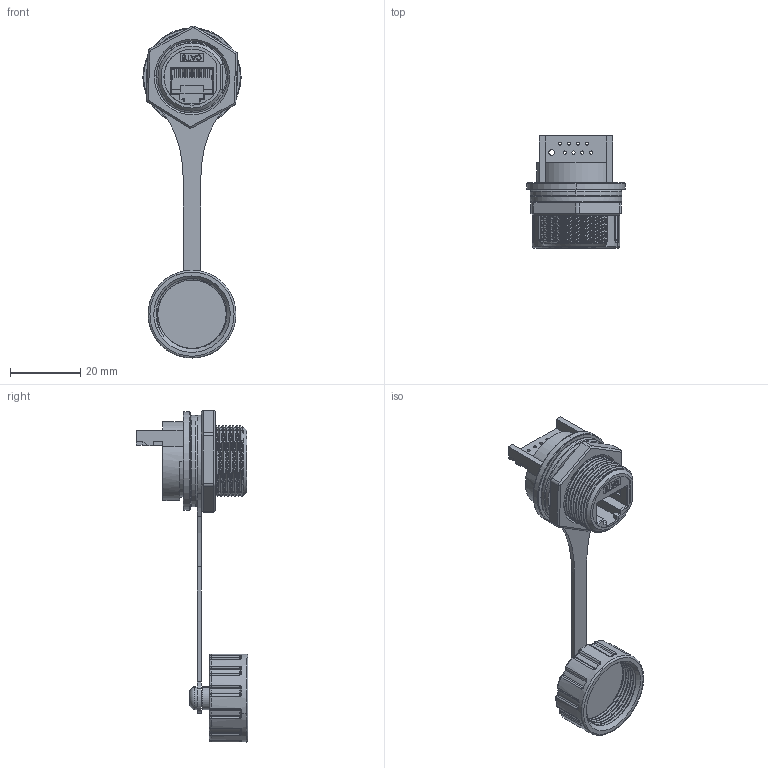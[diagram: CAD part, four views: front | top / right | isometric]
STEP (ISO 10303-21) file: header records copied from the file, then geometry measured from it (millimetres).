
FILE_DESCRIPTION((''),'2;1');
FILE_NAME('TMPMWRJ1101__CAT6_0001','2025-05-27T11:47:30',('admin'),(''),'CREO PARAMETRIC BY PTC INC, 2023073','CREO PARAMETRIC BY PTC INC, 2023073','');
FILE_SCHEMA(('CONFIG_CONTROL_DESIGN'));
Length unit declared in the file: millimetre
Products named in the file (1): TMPMWRJ1101__CAT6_0001
Bounding box: 28 x 31.85 x 94.66 mm (x, y, z)
Volume: 12759.4 mm3; surface area: 9228.6 mm2
Topology: 1 solids, 3 shells, 784 faces, 2304 edges, 1480 vertices
Faces by surface type: plane 283, cylinder 182, bspline 127, torus 98, extrusion 49, sphere 24, cone 19, revolution 2
Entity records: 38125 total; most frequent: CARTESIAN_POINT 18317, ORIENTED_EDGE 4512, DIRECTION 3652, EDGE_CURVE 2256, VERTEX_POINT 1480, AXIS2_PLACEMENT_3D 1289, VECTOR 1072, LINE 1023
